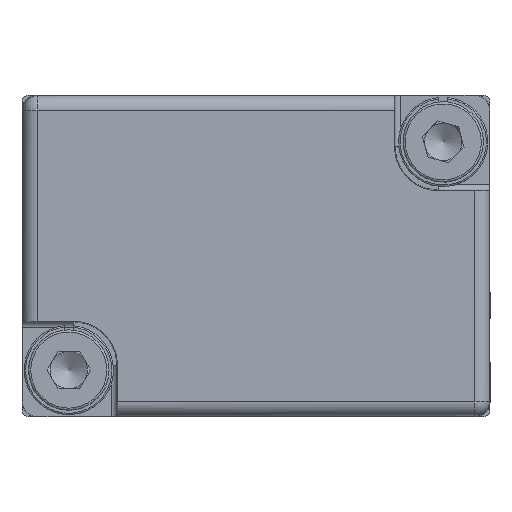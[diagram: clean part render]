
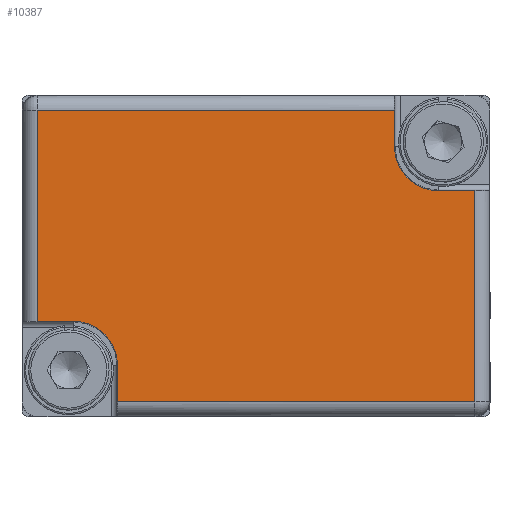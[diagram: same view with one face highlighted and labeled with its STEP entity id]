
A CAD part, front view. The second image highlights one B-rep face of the part: STEP entity #10387.
In plain terms, the highlighted planar face has unit normal (0, -1, 0).
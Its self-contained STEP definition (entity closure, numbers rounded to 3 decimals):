
#37 = EDGE_CURVE ( 'NONE', #9927, #9277, #4068, .T. ) ;
#38 = EDGE_CURVE ( 'NONE', #9911, #9065, #4113, .T. ) ;
#39 = EDGE_CURVE ( 'NONE', #9065, #9837, #4151, .T. ) ;
#40 = EDGE_CURVE ( 'NONE', #9277, #9837, #4321, .T. ) ;
#43 = EDGE_CURVE ( 'NONE', #9864, #9962, #4304, .T. ) ;
#44 = EDGE_CURVE ( 'NONE', #9862, #9864, #4318, .T. ) ;
#45 = EDGE_CURVE ( 'NONE', #9911, #9862, #4223, .T. ) ;
#47 = EDGE_CURVE ( 'NONE', #9794, #9927, #4308, .T. ) ;
#48 = EDGE_CURVE ( 'NONE', #9794, #9775, #4311, .T. ) ;
#378 = AXIS2_PLACEMENT_3D ( 'NONE', #3374, #3375, #3376 ) ;
#379 = AXIS2_PLACEMENT_3D ( 'NONE', #3394, #3395, #3396 ) ;
#1433 = AXIS2_PLACEMENT_3D ( 'NONE', #8320, #8321, #8322 ) ;
#1843 = DIRECTION ( 'NONE',  ( 0., 0., 1. ) ) ;
#1886 = CARTESIAN_POINT ( 'NONE',  ( 13.767, -69.811, 4.465 ) ) ;
#2941 = EDGE_CURVE ( 'NONE', #9775, #9962, #6160, .T. ) ;
#3365 = DIRECTION ( 'NONE',  ( -1., 0., 0. ) ) ;
#3369 = CARTESIAN_POINT ( 'NONE',  ( -16.163, -69.811, 9.967 ) ) ;
#3373 = CARTESIAN_POINT ( 'NONE',  ( -16.167, -69.811, -4.465 ) ) ;
#3374 = CARTESIAN_POINT ( 'NONE',  ( -13.7, -69.811, -7.5 ) ) ;
#3375 = DIRECTION ( 'NONE',  ( 0., -1., 0. ) ) ;
#3376 = DIRECTION ( 'NONE',  ( 0., 0., 1. ) ) ;
#3377 = DIRECTION ( 'NONE',  ( 0., 0., -1. ) ) ;
#3378 = CARTESIAN_POINT ( 'NONE',  ( -17.2, -69.811, -4.465 ) ) ;
#3381 = DIRECTION ( 'NONE',  ( -1., 0., 0. ) ) ;
#3383 = DIRECTION ( 'NONE',  ( 0., 0., -1. ) ) ;
#3388 = CARTESIAN_POINT ( 'NONE',  ( 14.8, -69.811, 4.465 ) ) ;
#3389 = CARTESIAN_POINT ( 'NONE',  ( 8.265, -69.811, 7.5 ) ) ;
#3390 = DIRECTION ( 'NONE',  ( 1., 0., 0. ) ) ;
#3394 = CARTESIAN_POINT ( 'NONE',  ( 11.3, -69.811, 7.5 ) ) ;
#3395 = DIRECTION ( 'NONE',  ( 0., -1., 0. ) ) ;
#3396 = DIRECTION ( 'NONE',  ( 0., 0., 1. ) ) ;
#3401 = DIRECTION ( 'NONE',  ( 0., 0., 1. ) ) ;
#3402 = CARTESIAN_POINT ( 'NONE',  ( -10.665, -69.811, -7.5 ) ) ;
#3403 = CARTESIAN_POINT ( 'NONE',  ( 13.763, -69.811, -9.967 ) ) ;
#3404 = DIRECTION ( 'NONE',  ( 1., 0., 0. ) ) ;
#4043 = VECTOR ( 'NONE', #3365, 1000. ) ;
#4068 = CIRCLE ( 'NONE', #378, 3.035 ) ;
#4113 = LINE ( 'NONE', #3369, #4043 ) ;
#4151 = LINE ( 'NONE', #3373, #4217 ) ;
#4217 = VECTOR ( 'NONE', #3377, 1000. ) ;
#4223 = LINE ( 'NONE', #3389, #4247 ) ;
#4247 = VECTOR ( 'NONE', #3383, 1000. ) ;
#4257 = VECTOR ( 'NONE', #3390, 1000. ) ;
#4289 = VECTOR ( 'NONE', #3401, 1000. ) ;
#4304 = LINE ( 'NONE', #3388, #4257 ) ;
#4308 = LINE ( 'NONE', #3402, #4289 ) ;
#4310 = VECTOR ( 'NONE', #3404, 1000. ) ;
#4311 = LINE ( 'NONE', #3403, #4310 ) ;
#4317 = VECTOR ( 'NONE', #3381, 1000. ) ;
#4318 = CIRCLE ( 'NONE', #379, 3.035 ) ;
#4321 = LINE ( 'NONE', #3378, #4317 ) ;
#5240 = CARTESIAN_POINT ( 'NONE',  ( -16.167, -69.811, 9.967 ) ) ;
#5246 = CARTESIAN_POINT ( 'NONE',  ( -13.7, -69.811, -4.465 ) ) ;
#5286 = CARTESIAN_POINT ( 'NONE',  ( 13.767, -69.811, -9.967 ) ) ;
#5306 = CARTESIAN_POINT ( 'NONE',  ( -10.665, -69.811, -9.967 ) ) ;
#5344 = CARTESIAN_POINT ( 'NONE',  ( -16.167, -69.811, -4.465 ) ) ;
#5375 = CARTESIAN_POINT ( 'NONE',  ( 8.265, -69.811, 7.5 ) ) ;
#5377 = CARTESIAN_POINT ( 'NONE',  ( 11.3, -69.811, 4.465 ) ) ;
#5433 = CARTESIAN_POINT ( 'NONE',  ( 8.265, -69.811, 9.967 ) ) ;
#5451 = CARTESIAN_POINT ( 'NONE',  ( -10.665, -69.811, -7.5 ) ) ;
#5469 = CARTESIAN_POINT ( 'NONE',  ( 13.767, -69.811, 4.465 ) ) ;
#5930 = VECTOR ( 'NONE', #1843, 1000. ) ;
#6160 = LINE ( 'NONE', #1886, #5930 ) ;
#6552 = EDGE_LOOP ( 'NONE', ( #9118, #9126, #9112, #9162, #9175, #9161, #9157, #9152, #9145, #9144 ) ) ;
#7864 = FACE_OUTER_BOUND ( 'NONE', #6552, .T. ) ;
#8312 = PLANE ( 'NONE',  #1433 ) ;
#8320 = CARTESIAN_POINT ( 'NONE',  ( -17.2, -69.811, -11. ) ) ;
#8321 = DIRECTION ( 'NONE',  ( 0., 1., 0. ) ) ;
#8322 = DIRECTION ( 'NONE',  ( 0., 0., 1. ) ) ;
#9065 = VERTEX_POINT ( 'NONE', #5240 ) ;
#9112 = ORIENTED_EDGE ( 'NONE', *, *, #40, .F. ) ;
#9118 = ORIENTED_EDGE ( 'NONE', *, *, #38, .T. ) ;
#9126 = ORIENTED_EDGE ( 'NONE', *, *, #39, .T. ) ;
#9144 = ORIENTED_EDGE ( 'NONE', *, *, #45, .F. ) ;
#9145 = ORIENTED_EDGE ( 'NONE', *, *, #44, .F. ) ;
#9152 = ORIENTED_EDGE ( 'NONE', *, *, #43, .F. ) ;
#9157 = ORIENTED_EDGE ( 'NONE', *, *, #2941, .T. ) ;
#9161 = ORIENTED_EDGE ( 'NONE', *, *, #48, .T. ) ;
#9162 = ORIENTED_EDGE ( 'NONE', *, *, #37, .F. ) ;
#9175 = ORIENTED_EDGE ( 'NONE', *, *, #47, .F. ) ;
#9277 = VERTEX_POINT ( 'NONE', #5246 ) ;
#9775 = VERTEX_POINT ( 'NONE', #5286 ) ;
#9794 = VERTEX_POINT ( 'NONE', #5306 ) ;
#9837 = VERTEX_POINT ( 'NONE', #5344 ) ;
#9862 = VERTEX_POINT ( 'NONE', #5375 ) ;
#9864 = VERTEX_POINT ( 'NONE', #5377 ) ;
#9911 = VERTEX_POINT ( 'NONE', #5433 ) ;
#9927 = VERTEX_POINT ( 'NONE', #5451 ) ;
#9962 = VERTEX_POINT ( 'NONE', #5469 ) ;
#10387 = ADVANCED_FACE ( 'NONE', ( #7864 ), #8312, .F. ) ;
